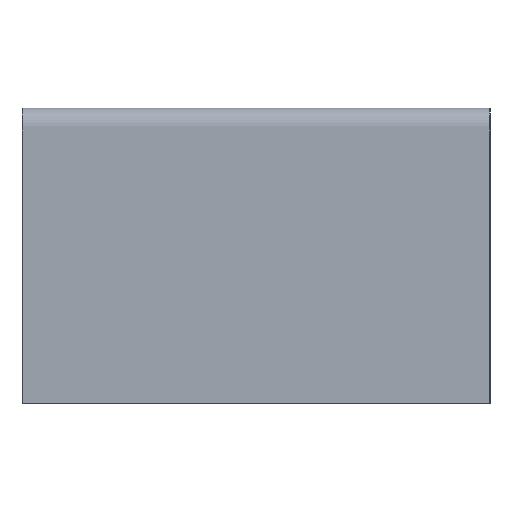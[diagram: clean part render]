
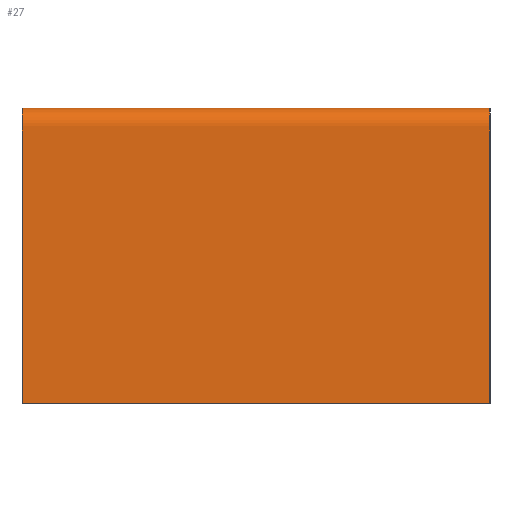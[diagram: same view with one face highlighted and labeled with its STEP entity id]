
A CAD part, left-side view. The second image highlights one B-rep face of the part: STEP entity #27.
In plain terms, the highlighted free-form (B-spline) face has degree [1, 2] with [2, 11] control points.
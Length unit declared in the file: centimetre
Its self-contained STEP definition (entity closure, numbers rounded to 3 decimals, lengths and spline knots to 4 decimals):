
#27=ADVANCED_FACE($,(#67),#452,.T.);
#67=FACE_OUTER_BOUND($,#107,.T.);
#107=EDGE_LOOP($,(#156,#157,#158,#159));
#156=ORIENTED_EDGE($,*,*,#316,.T.);
#157=ORIENTED_EDGE($,*,*,#321,.T.);
#158=ORIENTED_EDGE($,*,*,#319,.F.);
#159=ORIENTED_EDGE($,*,*,#322,.F.);
#316=EDGE_CURVE($,#399,#398,#574,.T.);
#319=EDGE_CURVE($,#402,#401,#575,.T.);
#321=EDGE_CURVE($,#398,#401,#497,.T.);
#322=EDGE_CURVE($,#399,#402,#498,.T.);
#398=VERTEX_POINT($,#856);
#399=VERTEX_POINT($,#857);
#401=VERTEX_POINT($,#859);
#402=VERTEX_POINT($,#860);
#452=(
BOUNDED_SURFACE()
B_SPLINE_SURFACE(1,2,((#809,#810,#811,#812,#813,#814,#815,#816,#817,#818,
#819),(#820,#821,#822,#823,#824,#825,#826,#827,#828,#829,#830)),.UNSPECIFIED.,
.F.,.F.,.F.)
B_SPLINE_SURFACE_WITH_KNOTS((2,2),(3,2,2,2,2,3),(0.,68.),(-801.3934,
-761.0934,-758.7372,-633.9372,-631.581,
-591.281),.UNSPECIFIED.)
GEOMETRIC_REPRESENTATION_ITEM()
RATIONAL_B_SPLINE_SURFACE(((1.,1.,1.,0.707,1.,1.,1.,0.707,
1.,1.,1.),(1.,1.,1.,0.707,1.,1.,1.,0.707,1.,1.,1.)))
REPRESENTATION_ITEM($)
SURFACE()
);
#497=B_SPLINE_CURVE_WITH_KNOTS($,1,(#800,#801),.UNSPECIFIED.,.F.,.F.,(2,
2),(0.,68.),.UNSPECIFIED.);
#498=B_SPLINE_CURVE_WITH_KNOTS($,1,(#802,#803),.UNSPECIFIED.,.F.,.F.,(2,
2),(0.,68.),.UNSPECIFIED.);
#574=(
BOUNDED_CURVE()
B_SPLINE_CURVE(2,(#772,#773,#774,#775,#776,#777,#778,#779,#780,#781,#782),
.UNSPECIFIED.,.F.,.F.)
B_SPLINE_CURVE_WITH_KNOTS((3,2,2,2,2,3),(591.281,631.581,
633.9372,758.7372,761.0934,801.3934),.UNSPECIFIED.)
CURVE()
GEOMETRIC_REPRESENTATION_ITEM()
RATIONAL_B_SPLINE_CURVE((1.,1.,1.,0.707,1.,1.,1.,0.707,
1.,1.,1.))
REPRESENTATION_ITEM($)
);
#575=(
BOUNDED_CURVE()
B_SPLINE_CURVE(2,(#787,#788,#789,#790,#791,#792,#793,#794,#795,#796,#797),
.UNSPECIFIED.,.F.,.F.)
B_SPLINE_CURVE_WITH_KNOTS((3,2,2,2,2,3),(591.281,631.581,
633.9372,758.7372,761.0934,801.3934),.UNSPECIFIED.)
CURVE()
GEOMETRIC_REPRESENTATION_ITEM()
RATIONAL_B_SPLINE_CURVE((1.,1.,1.,0.707,1.,1.,1.,0.707,
1.,1.,1.))
REPRESENTATION_ITEM($)
);
#772=CARTESIAN_POINT($,(0.,0.,0.));
#773=CARTESIAN_POINT($,(0.,0.,20.15));
#774=CARTESIAN_POINT($,(0.,0.,40.3));
#775=CARTESIAN_POINT($,(0.,0.,43.));
#776=CARTESIAN_POINT($,(2.7,0.,43.));
#777=CARTESIAN_POINT($,(65.1,0.,43.));
#778=CARTESIAN_POINT($,(127.5,0.,43.));
#779=CARTESIAN_POINT($,(130.2,0.,43.));
#780=CARTESIAN_POINT($,(130.2,0.,40.3));
#781=CARTESIAN_POINT($,(130.2,0.,20.15));
#782=CARTESIAN_POINT($,(130.2,0.,0.));
#787=CARTESIAN_POINT($,(0.,68.,0.));
#788=CARTESIAN_POINT($,(0.,68.,20.15));
#789=CARTESIAN_POINT($,(0.,68.,40.3));
#790=CARTESIAN_POINT($,(0.,68.,43.));
#791=CARTESIAN_POINT($,(2.7,68.,43.));
#792=CARTESIAN_POINT($,(65.1,68.,43.));
#793=CARTESIAN_POINT($,(127.5,68.,43.));
#794=CARTESIAN_POINT($,(130.2,68.,43.));
#795=CARTESIAN_POINT($,(130.2,68.,40.3));
#796=CARTESIAN_POINT($,(130.2,68.,20.15));
#797=CARTESIAN_POINT($,(130.2,68.,0.));
#800=CARTESIAN_POINT($,(130.2,0.,0.));
#801=CARTESIAN_POINT($,(130.2,68.,0.));
#802=CARTESIAN_POINT($,(0.,0.,0.));
#803=CARTESIAN_POINT($,(0.,68.,0.));
#809=CARTESIAN_POINT($,(130.2,0.,0.));
#810=CARTESIAN_POINT($,(130.2,0.,20.15));
#811=CARTESIAN_POINT($,(130.2,0.,40.3));
#812=CARTESIAN_POINT($,(130.2,0.,43.));
#813=CARTESIAN_POINT($,(127.5,0.,43.));
#814=CARTESIAN_POINT($,(65.1,0.,43.));
#815=CARTESIAN_POINT($,(2.7,0.,43.));
#816=CARTESIAN_POINT($,(0.,0.,43.));
#817=CARTESIAN_POINT($,(0.,0.,40.3));
#818=CARTESIAN_POINT($,(0.,0.,20.15));
#819=CARTESIAN_POINT($,(0.,0.,0.));
#820=CARTESIAN_POINT($,(130.2,68.,0.));
#821=CARTESIAN_POINT($,(130.2,68.,20.15));
#822=CARTESIAN_POINT($,(130.2,68.,40.3));
#823=CARTESIAN_POINT($,(130.2,68.,43.));
#824=CARTESIAN_POINT($,(127.5,68.,43.));
#825=CARTESIAN_POINT($,(65.1,68.,43.));
#826=CARTESIAN_POINT($,(2.7,68.,43.));
#827=CARTESIAN_POINT($,(0.,68.,43.));
#828=CARTESIAN_POINT($,(0.,68.,40.3));
#829=CARTESIAN_POINT($,(0.,68.,20.15));
#830=CARTESIAN_POINT($,(0.,68.,0.));
#856=CARTESIAN_POINT($,(130.2,0.,0.));
#857=CARTESIAN_POINT($,(0.,0.,0.));
#859=CARTESIAN_POINT($,(130.2,68.,0.));
#860=CARTESIAN_POINT($,(0.,68.,0.));
